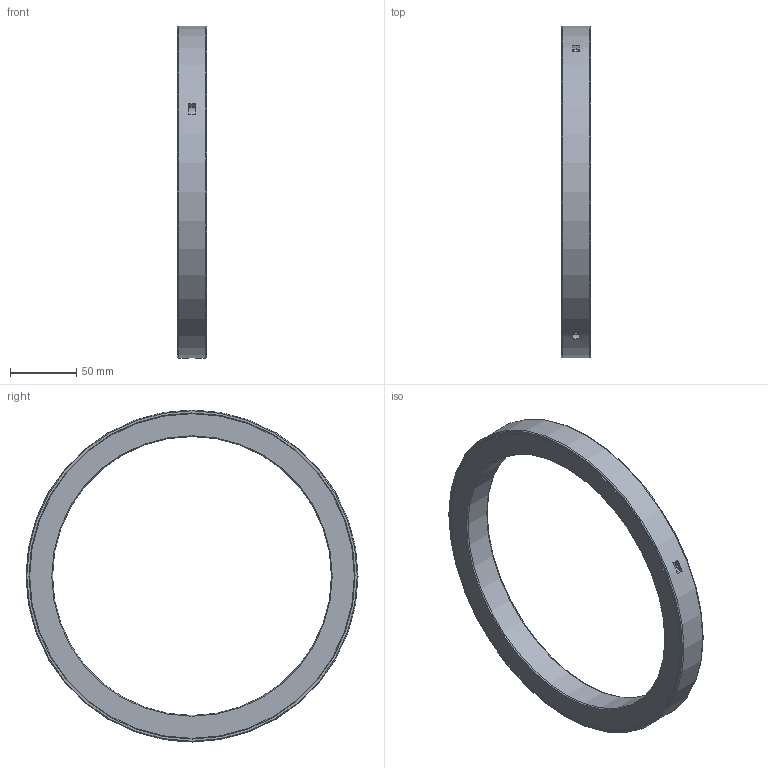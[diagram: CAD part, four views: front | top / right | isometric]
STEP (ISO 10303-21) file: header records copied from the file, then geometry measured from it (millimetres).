
FILE_DESCRIPTION(/* description */ (''),/* implementation_level */ '2;1');
FILE_NAME(/* name */ '301473 M 210x250x22.stp',/* time_stamp */ '2016-12-15T12:27:12+01:00',/* author */ (''),/* organization */ (''),/* preprocessor_version */ 'ST-DEVELOPER v15',/* originating_system */ 'SIEMENS PLM Software NX 8.5',/* authorisation */ '');
FILE_SCHEMA (('CONFIG_CONTROL_DESIGN'));
Length unit declared in the file: millimetre
Products named in the file (1): ATE0000124_01
Bounding box: 22 x 250 x 250 mm (x, y, z)
Volume: 307961.5 mm3; surface area: 93408.6 mm2
Topology: 2 solids, 2 shells, 39 faces, 111 edges, 72 vertices
Faces by surface type: plane 16, cone 12, cylinder 11
Full cylindrical faces by diameter (mm): 210 x1, 250 x1
Entity records: 1274 total; most frequent: CARTESIAN_POINT 264, DIRECTION 202, ORIENTED_EDGE 176, AXIS2_PLACEMENT_3D 98, EDGE_CURVE 88, VERTEX_POINT 64, EDGE_LOOP 60, CIRCLE 58
